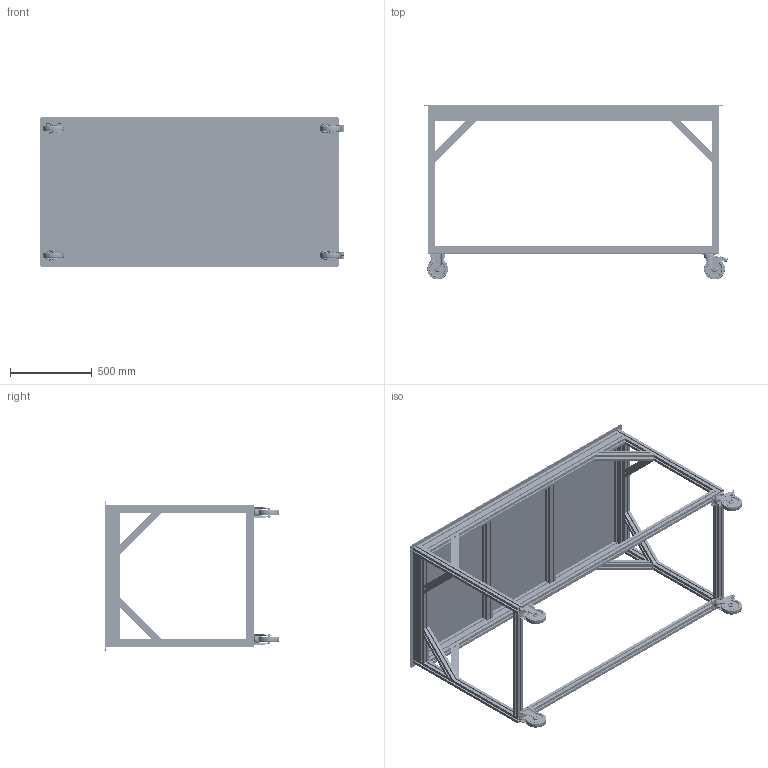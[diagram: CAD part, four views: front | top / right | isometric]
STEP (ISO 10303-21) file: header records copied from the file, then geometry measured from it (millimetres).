
FILE_DESCRIPTION((''),'2;1');
FILE_NAME('C:\Andys Backup Data\WEBSITE\DREAMWEAVER\MiniTec\Assembly_Examples\Tables_Carts\SP050313_MEDIUM-HEAVY_TABLE\SP050313 MEDIUM-HEAVY DUTY TABLE.stp','2013-05-03T14:13:31',('Admin'),(''),'Autodesk Inventor 2012','Autodesk Inventor 2012','');
FILE_SCHEMA(('AUTOMOTIVE_DESIGN { 1 0 10303 214 1 1 1 1 }'));
Length unit declared in the file: inch
Products named in the file (35): SP050313 MEDIUM-HEAVY DUTY TABLE; SP050313 LEG; SP050313 45X90 HORI WIDTH; SP050313 45x90 HORI DEPTH; SP050313 45X45 HORI DEPTH; SP050313 45X45 HORI WIDTH; SP050313 TABLE TOP ASSY; SP050313 TABLE TOP; 21.1507 M6x20 C'SUNK; 21.1330_2 M6 SQUARE NUT POS FXG; 21.1761 STRENGTHENING ELEMENT 45; 21.1761_1 STRENGTHENING ELEMENT 45; 21.1208  M8 x 35; 21.1351_2 M8 SQUARE NUT POS FXG; 21.9407 RIGID CASTER 5in; 21.9407_1 CASTER 5 RIGID; 21.9404 wheel assy; 21.9403 ball bearing; 21.9404 wheel core; 21.9404 wheel tread; 21.9401 WHEEL BOLT; 21.9401 WHEEL NUT; 21.9407 RIGID CASTER 5IN FORK; 21.1200 M8 x 16; 21.9404 CASTER 5 PLT BRK; 21.9404_1 CASTER 5 PLT BRK; 21.9404 WHEEL FORK; 21.9401 UPPER RIVET; 21.9401 mtg plate std; 21.9401 LOWER RACEWAY; 21.9404 BRK_ASSY; 21.9401 BRAKE; 21.9401 CROSS BOLT; 21.9404 BRAKE FORK; 21.9401 UPPER RACEWAY
Assembly tree (91 placements, depth 5):
  SP050313 MEDIUM-HEAVY DUTY TABLE
    SP050313 LEG  x4
    SP050313 45X90 HORI WIDTH  x2
    SP050313 45x90 HORI DEPTH  x2
    SP050313 45X45 HORI DEPTH  x4
    SP050313 45X45 HORI WIDTH  x2
    SP050313 TABLE TOP ASSY
      SP050313 TABLE TOP
      21.1330_2 M6 SQUARE NUT POS FXG  x20
    21.1761 STRENGTHENING ELEMENT 45  x8
      21.1761_1 STRENGTHENING ELEMENT 45
      21.1208  M8 x 35
      21.1351_2 M8 SQUARE NUT POS FXG
    21.9407 RIGID CASTER 5in  x2
      21.9407_1 CASTER 5 RIGID
        21.9404 wheel assy
          21.9403 ball bearing
          21.9404 wheel core
          21.9404 wheel tread
        21.9401 WHEEL BOLT
        21.9401 WHEEL NUT
        21.9407 RIGID CASTER 5IN FORK
      21.1200 M8 x 16
      21.1351_2 M8 SQUARE NUT POS FXG
    21.9404 CASTER 5 PLT BRK  x2
      21.1200 M8 x 16
      21.1351_2 M8 SQUARE NUT POS FXG
      21.9404_1 CASTER 5 PLT BRK
        21.9404 WHEEL FORK
        21.9401 UPPER RIVET
        21.9401 mtg plate std
        21.9401 LOWER RACEWAY
        21.9404 wheel assy
          21.9403 ball bearing
          21.9404 wheel core
          21.9404 wheel tread
        21.9401 WHEEL BOLT
        21.9401 WHEEL NUT
        21.9404 BRK_ASSY
          21.9401 BRAKE
          21.9401 CROSS BOLT  x2
          21.9404 BRAKE FORK
        21.9401 UPPER RACEWAY
  21.1507 M6x20 C'SUNK
Bounding box: 1861.72 x 1066.7 x 914.4 mm (x, y, z)
Volume: 27475448.1 mm3; surface area: 15152061.9 mm2
Topology: 167 solids, 167 shells, 6210 faces, 16318 edges, 10588 vertices
Faces by surface type: plane 3876, cylinder 1432, cone 322, bspline 294, torus 246, sphere 36, revolution 4
Full cylindrical faces by diameter (mm): 2.286 x4, 3.454 x4, 4.064 x4, 4.674 x4, 5.004 x8, 5.258 x2, 6 x40, 6.5 x20, 7.5 x24, 8 x64, 8.5 x16, 8.871 x4, 9.525 x4, 12 x52, 12.192 x4, 13 x48, 15.545 x2, 15.875 x12, 19.279 x2, 22.606 x8, 22.86 x4, 22.911 x4, 24.384 x2, 31.039 x8, 32.563 x2, 51.562 x2, 62.8 x2, 93.015 x8, 98.095 x4, 98.146 x4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
Entity records: 70043 total; most frequent: CARTESIAN_POINT 24282, ORIENTED_EDGE 9230, DIRECTION 8938, EDGE_CURVE 4615, VERTEX_POINT 3055, VECTOR 3042, LINE 3042, AXIS2_PLACEMENT_3D 2947
